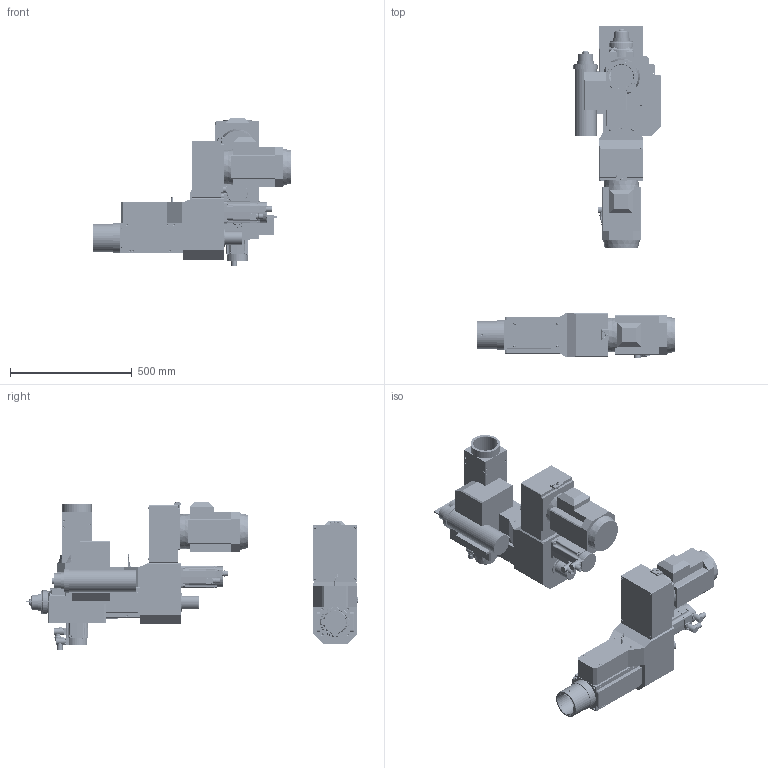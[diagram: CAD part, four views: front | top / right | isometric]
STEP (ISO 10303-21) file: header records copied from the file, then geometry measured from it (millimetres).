
FILE_DESCRIPTION( ( 'STEP AP203' ), '1' );
FILE_NAME( 'C:/Documents and Settings/Saverio/Desktop/disegni ironcad/unità serie 2/FMT 232 CN/FMT232CN_HSK50manual.stp', '2013-11-28T09:07:45', ( ' ' ), ( ' ' ), 'XStep 1.0', ' ', ' ' );
FILE_SCHEMA( ( 'CONFIG_CONTROL_DESIGN' ) );
Length unit declared in the file: metre
Products named in the file (40): Assem1; Assem2; Assem3; 1; 2; 3; 4; 5; 6; 7; 8; 9; 10; 11; 12; 13; 14; 15; 16; 17; 18; 19; 20; 21; 22; 23; 24; 25; 26; 27; 28; 29; 30; 31; 32; 33; 34; 35; 36; 37
Bounding box: 814.5 x 1362.82 x 609 mm (x, y, z)
Volume: 84202112.4 mm3; surface area: 5354537.9 mm2
Topology: 131 solids, 134 shells, 4650 faces, 11565 edges, 7535 vertices
Faces by surface type: plane 2270, cylinder 1612, cone 610, torus 86, bspline 72
Full cylindrical faces by diameter (mm): 1 x18, 2 x12, 3 x6, 4 x23, 4.2 x15, 4.5 x48, 4.918 x6, 5 x27, 5.5 x12, 6 x30, 6.5 x3, 7 x53, 7.4 x24, 8 x30, 8.5 x12, 9.87 x3, 10 x9, 13.5 x12, 18.3 x3, 19 x3, 19.2 x3, 20 x21, 21.7 x6, 22.7 x6, 25 x3, 25.4 x3, 26.7 x6, 35 x3, 42 x3, 42.5 x3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
Entity records: 45719 total; most frequent: CARTESIAN_POINT 10968, DIRECTION 6958, ORIENTED_EDGE 6266, EDGE_CURVE 3133, AXIS2_PLACEMENT_3D 2693, VERTEX_POINT 2250, EDGE_LOOP 1976, FACE_OUTER_BOUND 1636
